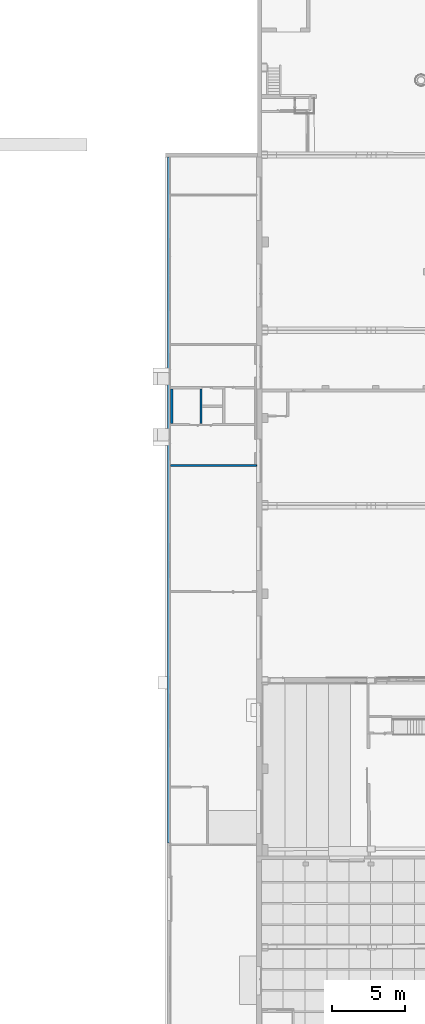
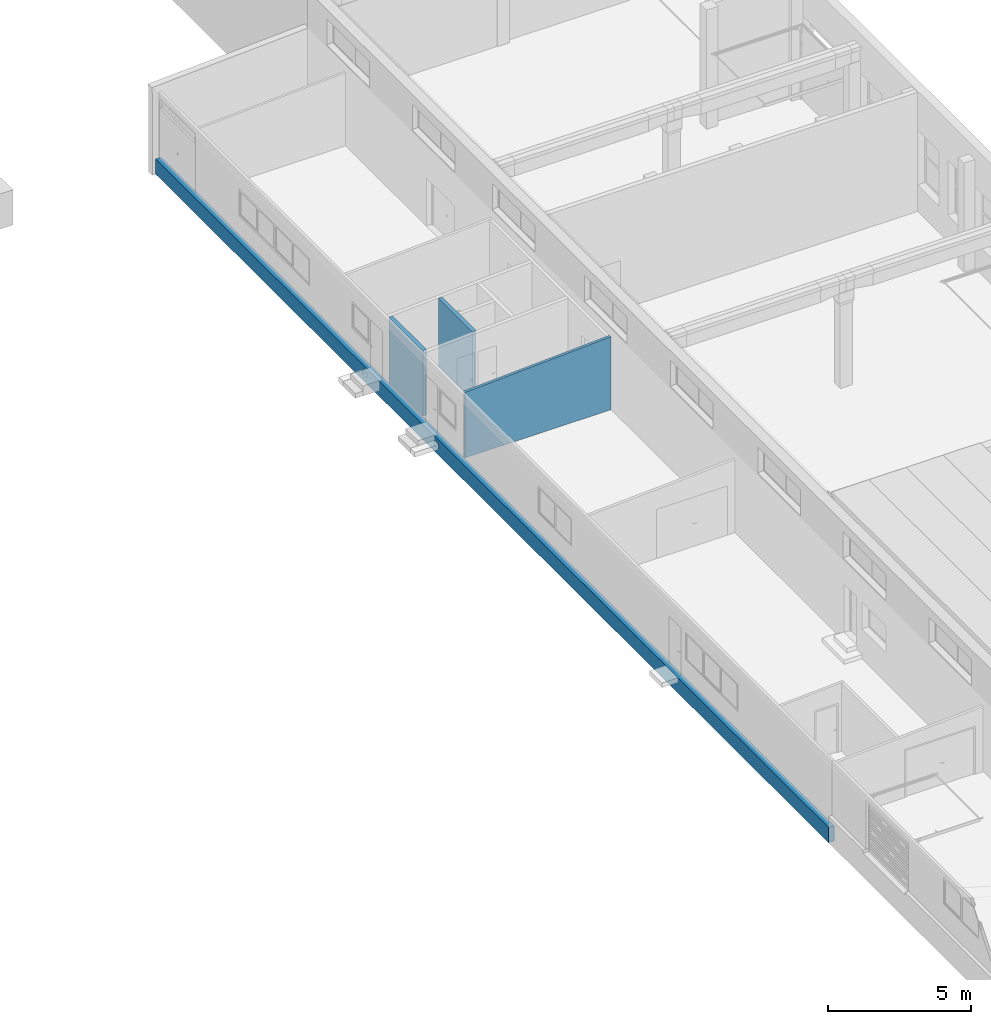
# One storey, part 148 of 301: 4 walls.
"""IFC2X3 building model written with IfcOpenShell, lengths in millimetres."""

from ifc_helpers import new_model, entity, si_unit, converted_unit, derived_unit, money_unit, direction, frame, origin_with_axes, place, context, subcontext, project, spatial, faceted_brep, material, type_object, element, save


model = new_model("IFC2X3")

# Units and contexts
model_context = context("Model", 3, precision=0.01, world=origin_with_axes(), true_north=direction((0.0, 1.0)))
body_context = subcontext(model_context, "Body", "Model", "MODEL_VIEW")
ifc_project = project(units=[si_unit("LENGTHUNIT", "METRE", prefix="MILLI"), si_unit("AREAUNIT", "SQUARE_METRE"), si_unit("VOLUMEUNIT", "CUBIC_METRE"), converted_unit("PLANEANGLEUNIT", "DEGREE", entity("IfcPlaneAngleMeasure", 0.0174532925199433), si_unit("PLANEANGLEUNIT", "RADIAN"), dimensions=[0, 0, 0, 0, 0, 0, 0]), money_unit("EUR"), converted_unit("TIMEUNIT", "Year", entity("IfcTimeMeasure", 31557600.0), si_unit("TIMEUNIT", "SECOND"), dimensions=[0, 0, 1, 0, 0, 0, 0]), si_unit("MASSUNIT", "GRAM", prefix="KILO"), si_unit("THERMODYNAMICTEMPERATUREUNIT", "DEGREE_CELSIUS"), si_unit("LUMINOUSINTENSITYUNIT", "LUMEN"), si_unit("ENERGYUNIT", "JOULE", prefix="MEGA"), derived_unit("THERMALCONDUCTANCEUNIT", [(si_unit("POWERUNIT", "WATT"), 1), (si_unit("LENGTHUNIT", "METRE"), -1), (si_unit("THERMODYNAMICTEMPERATUREUNIT", "KELVIN"), -1)]), derived_unit("SPECIFICHEATCAPACITYUNIT", [(si_unit("ENERGYUNIT", "JOULE"), 1), (si_unit("MASSUNIT", "GRAM", prefix="KILO"), -1), (si_unit("THERMODYNAMICTEMPERATUREUNIT", "KELVIN"), -1)]), derived_unit("MASSDENSITYUNIT", [(si_unit("MASSUNIT", "GRAM", prefix="KILO"), 1), (si_unit("VOLUMEUNIT", "CUBIC_METRE"), -1)])], contexts=[model_context])

# Site, building, storey
site_placement = place(None, frame((0.0, 0.0, 8650.0), z_axis=(0.0, 0.0, 1.0), x_axis=(1.0, 0.0, 0.0)))
site = spatial("IfcSite", under=ifc_project, at=site_placement, Name="43301:001:0844", CompositionType="ELEMENT")
building_placement = place(site_placement, origin_with_axes())
building = spatial("IfcBuilding", under=site, at=building_placement, Name="Kuressaare Ametikooli tuulikute mehaanikute õppekorpus", CompositionType="ELEMENT")
storey_placement = place(building_placement, origin_with_axes())
storey = spatial("IfcBuildingStorey", under=building, at=storey_placement, Name="1.korrus", CompositionType="ELEMENT", Elevation=0.0)

# Walls
ifc_material = material(Name="GENEERILINE - KONSTRUKTRIOON")
wall_type_1 = type_object("IfcWallType", Name="GENEERILINE - KONSTRUKTRIOON 110", PredefinedType="NOTDEFINED")
wall_1_placement = place(storey_placement, frame((87898.75644683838, 89200.79648192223, -330.0), z_axis=(0.0, 0.0, 1.0), x_axis=(-1.0, 0.0, 0.0)))
element("IfcWall", 1, at=wall_1_placement, inside=storey, type_object=wall_type_1, material=ifc_material, context=body_context, shape_type="Brep", body=[
    faceted_brep([(5906.718880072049, 0.0, 2796.287044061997), (0.0, 0.0, 3116.179958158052), (0.0, 0.0, 0.0), (5906.718880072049, 0.0, 0.0), (0.0, 109.9999999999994, 3116.151909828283), (5906.719722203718, 109.9999999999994, 2796.258950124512), (0.0, 109.9999999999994, 0.0), (5906.719722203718, 109.9999999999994, 0.0)], [[[0, 1, 2, 3]], [[4, 1, 0, 5]], [[1, 4, 6, 2]], [[3, 2, 6, 7]], [[5, 0, 3, 7]], [[4, 5, 7, 6]]]),
])
wall_type_2 = type_object("IfcWallType", Name="GENEERILINE - KONSTRUKTRIOON 230", PredefinedType="NOTDEFINED")
wall_2_placement = place(storey_placement, frame((81761.88862698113, 110318.8935961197, -1000.0), z_axis=(0.0, 0.0, 1.0), x_axis=(0.0, -1.0, 0.0)))
element("IfcWall", 2, at=wall_2_placement, inside=storey, type_object=wall_type_2, material=ifc_material, Name="VS-XX", context=body_context, shape_type="Brep", body=[
    faceted_brep([(0.0, 0.0, 650.0), (0.0, 0.0, 0.0), (47082.6303209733, 0.0, 0.0), (47082.6303209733, 0.0, 650.0), (14784.93771753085, 0.0, 456.9999999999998), (14784.93771753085, 0.0, 256.9999999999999), (14480.9613630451, 0.0, 256.9999999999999), (14480.9613630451, 0.0, 456.9999999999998), (19793.70222503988, 0.0, 456.9999999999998), (19793.70222503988, 0.0, 256.9999999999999), (19489.72587055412, 0.0, 256.9999999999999), (19489.72587055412, 0.0, 456.9999999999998), (0.0, 230.000000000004, 650.0), (0.0, 230.000000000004, 0.0), (47082.6303209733, 229.9999999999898, 0.0), (47082.6303209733, 229.9999999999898, 650.0), (14784.93771753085, 130.2835691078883, 256.9999999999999), (14784.93771753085, 130.2835691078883, 456.9999999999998), (14480.96236046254, 130.2835691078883, 256.9999999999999), (14480.96236046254, 130.2835691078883, 456.9999999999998), (19793.70122762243, 130.2835691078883, 256.9999999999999), (19793.70122762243, 130.2835691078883, 456.9999999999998), (19489.72587055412, 130.2835691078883, 256.9999999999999), (19489.72587055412, 130.2835691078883, 456.9999999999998)], [[[0, 1, 2, 3], [4, 5, 6, 7], [8, 9, 10, 11]], [[0, 12, 13, 1]], [[1, 13, 14, 2]], [[3, 2, 14, 15]], [[12, 0, 3, 15]], [[16, 5, 4, 17]], [[18, 6, 5, 16]], [[19, 7, 6, 18]], [[17, 4, 7, 19]], [[20, 9, 8, 21]], [[22, 10, 9, 20]], [[23, 11, 10, 22]], [[21, 8, 11, 23]], [[13, 12, 15, 14]], [[18, 16, 17, 19]], [[22, 20, 21, 23]]]),
])
wall_type_3 = type_object("IfcWallType", Name="GENEERILINE - KONSTRUKTRIOON 150", PredefinedType="NOTDEFINED")
wall_3_placement = place(storey_placement, frame((83993.94429608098, 94564.79733641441, -330.0), z_axis=(0.0, 0.0, 1.0), x_axis=(0.0, -1.0, 0.0)))
element("IfcWall", 3, at=wall_3_placement, inside=storey, type_object=wall_type_3, material=ifc_material, context=body_context, shape_type="Brep", body=[
    faceted_brep([(150.0000000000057, 0.0, 2906.034726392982), (150.0000000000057, 150.0000000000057, 2914.158345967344), (150.0000000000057, 150.0000000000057, 0.0), (150.0000000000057, 0.0, 0.0), (2528.045600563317, 150.0000000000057, 2913.551980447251), (2528.045600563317, 0.0, 2905.428360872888), (2528.045600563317, 150.0000000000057, 0.0), (2528.045600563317, 0.0, 0.0)], [[[0, 1, 2, 3]], [[4, 1, 0, 5]], [[1, 4, 6, 2]], [[2, 6, 7, 3]], [[5, 0, 3, 7]], [[4, 5, 7, 6]]]),
])
wall_4_placement = place(storey_placement, frame((81992.06714508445, 94564.79803986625, -330.0), z_axis=(0.0, 0.0, 1.0), x_axis=(0.0, -1.0, 0.0)))
element("IfcWall", 4, at=wall_4_placement, inside=storey, type_object=wall_type_3, material=ifc_material, context=body_context, shape_type="Brep", body=[
    faceted_brep([(2528.046304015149, 150.0000000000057, 0.0), (2528.046304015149, 0.0, 0.0), (150.0007034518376, 0.0, 0.0), (150.0007034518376, 150.0000000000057, 0.0), (2528.046304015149, 150.0000000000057, 2805.13539105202), (2528.046304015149, 0.0, 2797.011771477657), (150.0007034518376, 0.0, 2797.61813699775), (150.0007034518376, 150.0000000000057, 2805.741756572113)], [[[0, 1, 2, 3]], [[1, 0, 4, 5]], [[1, 5, 6, 2]], [[7, 3, 2, 6]], [[4, 0, 3, 7]], [[4, 7, 6, 5]]]),
])

save(model, "model.ifc")
